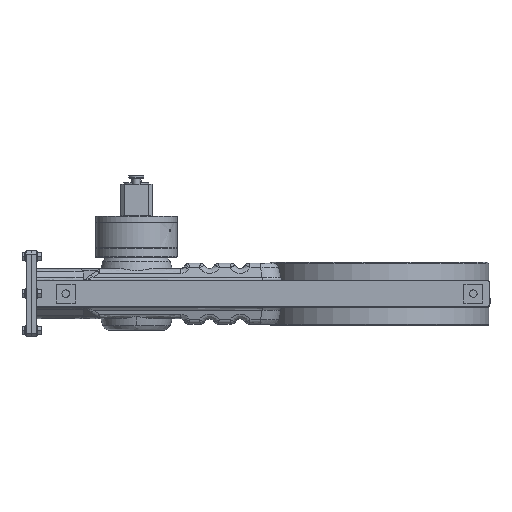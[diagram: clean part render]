
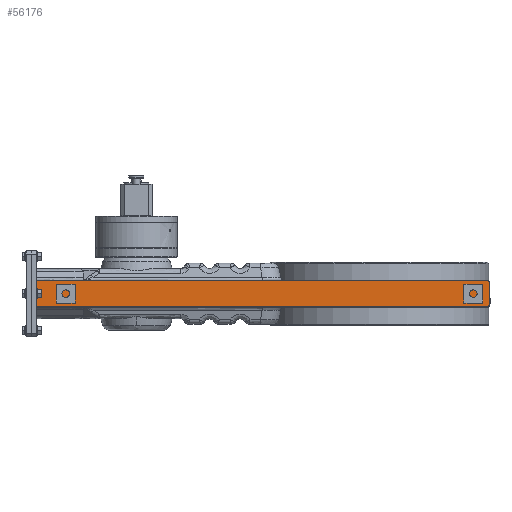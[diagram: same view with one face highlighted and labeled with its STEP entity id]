
A CAD part, left-side view. The second image highlights one B-rep face of the part: STEP entity #56176.
In plain terms, the highlighted free-form (B-spline) face has degree [1, 1] with [2, 2] control points.
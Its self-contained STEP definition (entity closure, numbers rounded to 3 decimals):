
#56039=CARTESIAN_POINT('V23',(0.,21.,
   718.));
#56040=VERTEX_POINT('V23',#56039);
#56047=CARTESIAN_POINT('V22',(0.,16.,723.0)
   );
#56048=VERTEX_POINT('V22',#56047);
#56054=CARTESIAN_POINT('E29',(0.,16.,723.0)
   );
#56055=CARTESIAN_POINT('E29',(0.,21.,
   723.));
#56056=CARTESIAN_POINT('E29',(0.,21.,
   718.));
#56064=(BOUNDED_CURVE()B_SPLINE_CURVE(2,(#56054,#56055,#56056),
   .CIRCULAR_ARC.,.F.,.U.)B_SPLINE_CURVE_WITH_KNOTS((3,3),(2.0,
   13.107),.UNSPECIFIED.)CURVE()
   GEOMETRIC_REPRESENTATION_ITEM()RATIONAL_B_SPLINE_CURVE((1.0,
   0.707,1.0))REPRESENTATION_ITEM('E29'));
#56065=EDGE_CURVE('E29',#56048,#56040,#56064,.T.);
#56077=CARTESIAN_POINT('V21',(0.,-16.0,
   723.));
#56078=VERTEX_POINT('V21',#56077);
#56084=CARTESIAN_POINT('E28',(0.,-16.0,
   723.));
#56085=CARTESIAN_POINT('E28',(0.,16.0,723.)
   );
#56086=B_SPLINE_CURVE_WITH_KNOTS('E28',1,(#56084,#56085),
   .POLYLINE_FORM.,.F.,.U.,(2,2),(2.0,47.255),
   .UNSPECIFIED.);
#56087=EDGE_CURVE('E28',#56078,#56048,#56086,.T.);
#56108=CARTESIAN_POINT('V20',(0.,-21.,
   718.));
#56109=VERTEX_POINT('V20',#56108);
#56115=CARTESIAN_POINT('E27',(0.,-21.,
   718.));
#56116=CARTESIAN_POINT('E27',(0.,-21.,
   723.));
#56117=CARTESIAN_POINT('E27',(0.,-16.0,
   723.));
#56125=(BOUNDED_CURVE()B_SPLINE_CURVE(2,(#56115,#56116,#56117),
   .CIRCULAR_ARC.,.F.,.U.)B_SPLINE_CURVE_WITH_KNOTS((3,3),(2.0,
   13.107),.UNSPECIFIED.)CURVE()
   GEOMETRIC_REPRESENTATION_ITEM()RATIONAL_B_SPLINE_CURVE((1.0,
   0.707,1.0))REPRESENTATION_ITEM('E27'));
#56126=EDGE_CURVE('E27',#56109,#56078,#56125,.T.);
#56138=CARTESIAN_POINT('V19',(0.,-21.,0.0)
   );
#56139=VERTEX_POINT('V19',#56138);
#56145=CARTESIAN_POINT('E26',(0.,-21.,0.0)
   );
#56146=CARTESIAN_POINT('E26',(0.,-21.,
   718.));
#56147=B_SPLINE_CURVE_WITH_KNOTS('E26',1,(#56145,#56146),
   .POLYLINE_FORM.,.F.,.U.,(2,2),(2.0,1017.405),
   .UNSPECIFIED.);
#56148=EDGE_CURVE('E26',#56139,#56109,#56147,.T.);
#56153=CARTESIAN_POINT('F9',(0.,21.5,0.0)
   );
#56154=CARTESIAN_POINT('F9',(0.,-21.5,0.0)
   );
#56155=CARTESIAN_POINT('F9',(0.,21.5,
   723.5));
#56156=CARTESIAN_POINT('F9',(0.,-21.5,
   723.5));
#56157=B_SPLINE_SURFACE_WITH_KNOTS('F9',1,1,((#56153,#56155),(
   #56154,#56156)),.PLANE_SURF.,.F.,.F.,.U.,(2,2),(2,2),(0.0,1.0),
   (0.0,16.826),.UNSPECIFIED.);
#56158=ORIENTED_EDGE('F20',*,*,#56148,.F.);
#56159=CARTESIAN_POINT('V24',(0.,21.,0.0)
   );
#56160=VERTEX_POINT('V24',#56159);
#56161=CARTESIAN_POINT('E31',(0.,-21.,0.0)
   );
#56162=CARTESIAN_POINT('E31',(0.,21.0,0.0));
#56163=B_SPLINE_CURVE_WITH_KNOTS('E31',1,(#56161,#56162),
   .POLYLINE_FORM.,.F.,.U.,(2,2),(0.012,
   0.988),.UNSPECIFIED.);
#56164=EDGE_CURVE('E31',#56139,#56160,#56163,.T.);
#56165=ORIENTED_EDGE('E31',*,*,#56164,.T.);
#56166=CARTESIAN_POINT('E30',(0.,21.,
   718.));
#56167=CARTESIAN_POINT('E30',(0.,21.,0.0)
   );
#56168=B_SPLINE_CURVE_WITH_KNOTS('E30',1,(#56166,#56167),
   .POLYLINE_FORM.,.F.,.U.,(2,2),(2.0,1017.405),
   .UNSPECIFIED.);
#56169=EDGE_CURVE('E30',#56040,#56160,#56168,.T.);
#56170=ORIENTED_EDGE('E30',*,*,#56169,.F.);
#56171=ORIENTED_EDGE('F17',*,*,#56065,.F.);
#56172=ORIENTED_EDGE('F18',*,*,#56087,.F.);
#56173=ORIENTED_EDGE('F19',*,*,#56126,.F.);
#56174=EDGE_LOOP('F9',(#56158,#56165,#56170,#56171,#56172,#56173));
#56175=FACE_OUTER_BOUND('F9',#56174,.F.);
#56176=ADVANCED_FACE('F9',(#56175),#56157,.T.);
